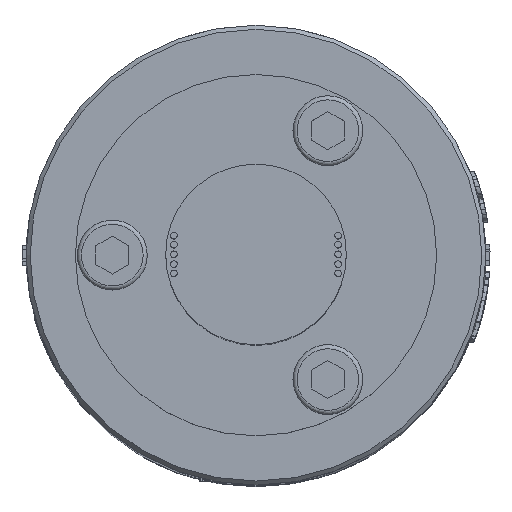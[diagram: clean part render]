
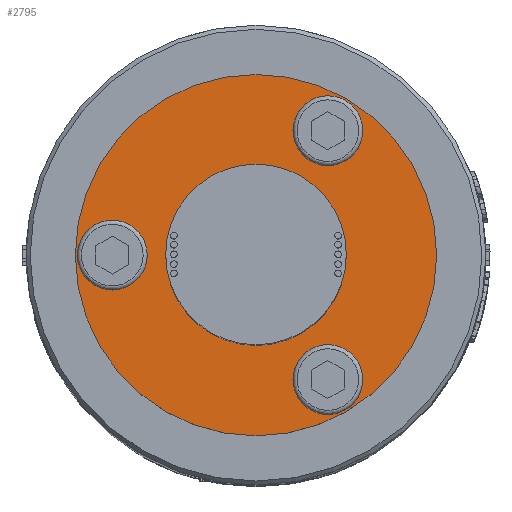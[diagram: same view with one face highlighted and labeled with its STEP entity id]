
A CAD part, top view. The second image highlights one B-rep face of the part: STEP entity #2795.
In plain terms, the highlighted planar face has unit normal (0, 0, 1).
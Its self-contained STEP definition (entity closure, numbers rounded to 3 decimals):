
#624=FACE_BOUND('',#7345,.T.);
#625=FACE_BOUND('',#7346,.T.);
#626=FACE_BOUND('',#7347,.T.);
#627=FACE_BOUND('',#7348,.T.);
#628=FACE_BOUND('',#7349,.T.);
#1050=CIRCLE('',#24000,4.25);
#1052=CIRCLE('',#24011,4.25);
#1055=CIRCLE('',#24024,4.25);
#1079=CIRCLE('',#24081,11.);
#1080=CIRCLE('',#24083,22.);
#1418=PLANE('',#24084);
#2795=ADVANCED_FACE('',(#624,#625,#626,#627,#628),#1418,.T.);
#7345=EDGE_LOOP('',(#11360));
#7346=EDGE_LOOP('',(#11361));
#7347=EDGE_LOOP('',(#11362));
#7348=EDGE_LOOP('',(#11363));
#7349=EDGE_LOOP('',(#11364));
#11360=ORIENTED_EDGE('',*,*,#18831,.F.);
#11361=ORIENTED_EDGE('',*,*,#18845,.F.);
#11362=ORIENTED_EDGE('',*,*,#18866,.F.);
#11363=ORIENTED_EDGE('',*,*,#18909,.T.);
#11364=ORIENTED_EDGE('',*,*,#18908,.F.);
#16175=VERTEX_POINT('',#37343);
#16183=VERTEX_POINT('',#37374);
#16198=VERTEX_POINT('',#37420);
#16234=VERTEX_POINT('',#37531);
#16235=VERTEX_POINT('',#37534);
#18831=EDGE_CURVE('',#16175,#16175,#1050,.T.);
#18845=EDGE_CURVE('',#16183,#16183,#1052,.T.);
#18866=EDGE_CURVE('',#16198,#16198,#1055,.T.);
#18908=EDGE_CURVE('',#16234,#16234,#1079,.T.);
#18909=EDGE_CURVE('',#16235,#16235,#1080,.T.);
#24000=AXIS2_PLACEMENT_3D('',#37342,#26380,#26381);
#24011=AXIS2_PLACEMENT_3D('',#37373,#26414,#26415);
#24024=AXIS2_PLACEMENT_3D('',#37419,#26458,#26459);
#24081=AXIS2_PLACEMENT_3D('',#37530,#26590,#26591);
#24083=AXIS2_PLACEMENT_3D('',#37533,#26594,#26595);
#24084=AXIS2_PLACEMENT_3D('',#37535,#26596,#26597);
#26380=DIRECTION('',(0.,0.,1.));
#26381=DIRECTION('',(-0.866,0.5,0.));
#26414=DIRECTION('',(0.,0.,1.));
#26415=DIRECTION('',(-0.866,0.5,0.));
#26458=DIRECTION('',(0.,0.,1.));
#26459=DIRECTION('',(-0.866,0.5,0.));
#26590=DIRECTION('',(0.,0.,1.));
#26591=DIRECTION('',(1.,0.,0.));
#26594=DIRECTION('',(0.,0.,1.));
#26595=DIRECTION('',(1.,0.,0.));
#26596=DIRECTION('',(0.,0.,1.));
#26597=DIRECTION('',(-1.,0.,0.));
#37342=CARTESIAN_POINT('',(8.75,-15.155,136.5));
#37343=CARTESIAN_POINT('',(5.069,-13.03,136.5));
#37373=CARTESIAN_POINT('',(8.75,15.155,136.5));
#37374=CARTESIAN_POINT('',(5.069,17.28,136.5));
#37419=CARTESIAN_POINT('',(-17.5,0.,136.5));
#37420=CARTESIAN_POINT('',(-21.181,2.125,136.5));
#37530=CARTESIAN_POINT('',(0.,0.,
136.5));
#37531=CARTESIAN_POINT('',(11.,0.,136.5));
#37533=CARTESIAN_POINT('',(0.,0.,
136.5));
#37534=CARTESIAN_POINT('',(22.,0.,136.5));
#37535=CARTESIAN_POINT('',(0.,0.,
136.5));
